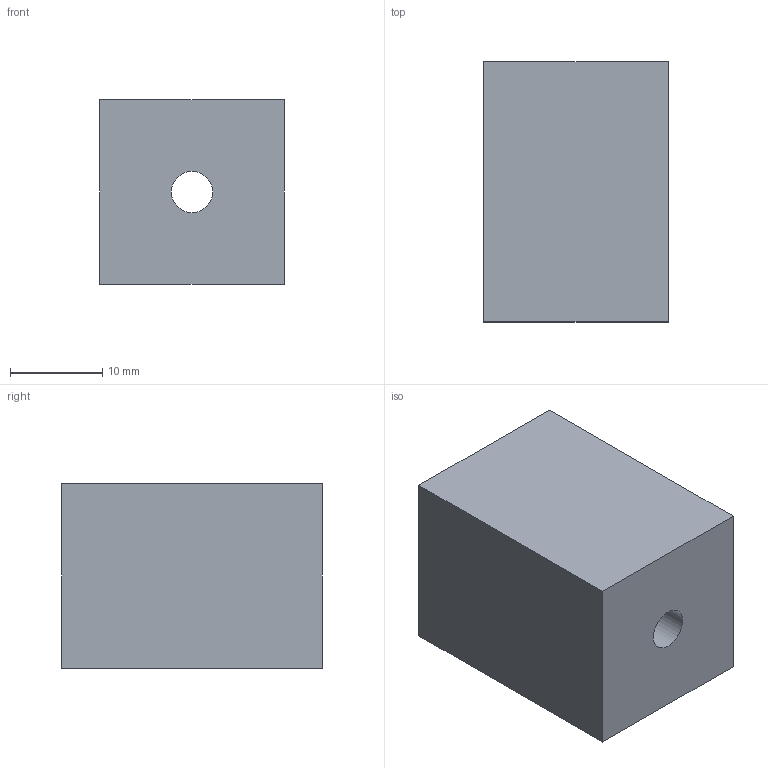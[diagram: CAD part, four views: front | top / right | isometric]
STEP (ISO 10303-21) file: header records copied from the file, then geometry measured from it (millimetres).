
FILE_DESCRIPTION(('Open CASCADE Model'),'2;1');
FILE_NAME('Open CASCADE Shape Model','2026-11-14T16:01:49',('Author'),( 'Open CASCADE'),'Open CASCADE STEP processor 7.9','Open CASCADE 7.9' ,'Unknown');
FILE_SCHEMA(('AUTOMOTIVE_DESIGN { 1 0 10303 214 1 1 1 1 }'));
Length unit declared in the file: millimetre
Products named in the file (1): Open CASCADE STEP translator 7.9 124
Bounding box: 20 x 28.2 x 20 mm (x, y, z)
Volume: 10831.5 mm3; surface area: 3422.9 mm2
Topology: 1 solids, 1 shells, 7 faces, 15 edges, 10 vertices
Faces by surface type: plane 6, cylinder 1
Full cylindrical faces by diameter (mm): 4.5 x1
Entity records: 400 total; most frequent: CARTESIAN_POINT 63, DIRECTION 63, LINE 41, VECTOR 41, ORIENTED_EDGE 30, PCURVE 30, DEFINITIONAL_REPRESENTATION 30, EDGE_CURVE 15
